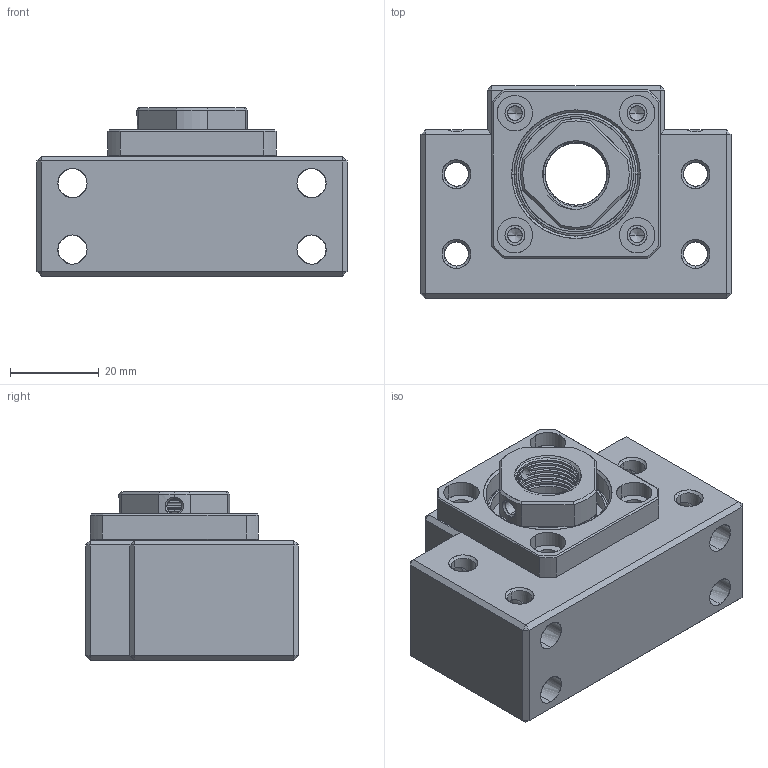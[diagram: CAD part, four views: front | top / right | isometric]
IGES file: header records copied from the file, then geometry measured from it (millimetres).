
Start section: SolidWorks IGES file using analytic representation for surfaces
Global section: file name: Z:\Accessories\_GC_!!!\SYK\Support unit\BK\BK15.IGS; native system: SolidWorks 2015; preprocessor: SolidWorks 2015; author: User; date: 170504.145046; units: millimetre
Bounding box: 70 x 48 x 38 mm (x, y, z)
Surface area: 37275.6 mm2 (no closed solid volume)
Topology: 0 solids, 0 shells, 469 faces, 7583 edges, 7463 vertices
Faces by surface type: bspline 240, revolution 229
